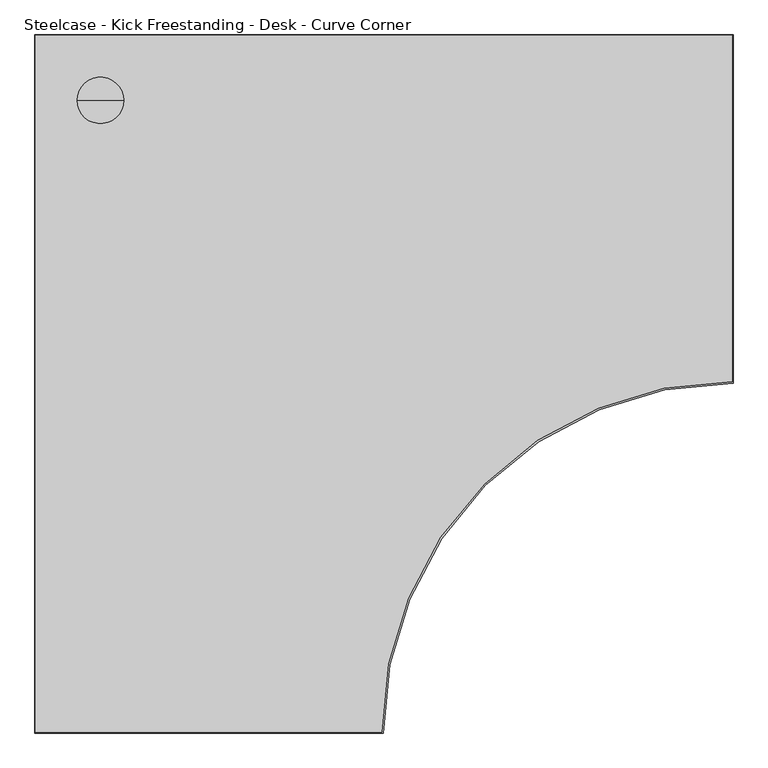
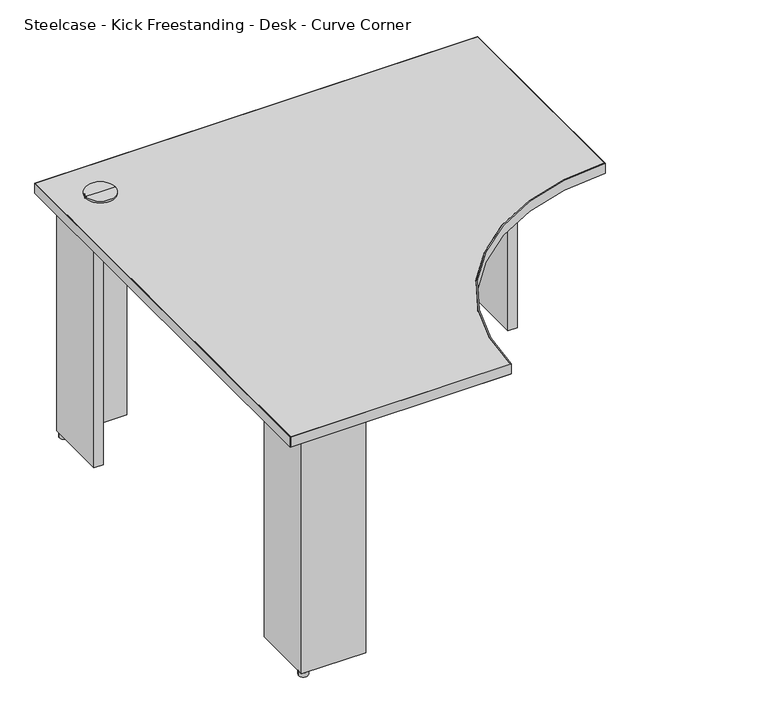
"""IFC4 building model written with IfcOpenShell, lengths in millimetres: furniture geometry, Steelcase - Kick Freestanding - Desk - Curve Corner : 24D x 48W - Two Clear Access Support - LPL."""

from ifc_helpers import new_model, si_unit, point, frame, frame_2d, origin, origin_with_axes, place, context, project, spatial, polyline, circle_curve, trimmed, segment, composite_curve, outline, extrude, source, transform, mapped, element, save
from ifc_brep_helpers import plane_surface, cylinder_surface, advanced_brep


def steelcase_kick_freestanding_desk_curve_corner_5aa43547(model_context):
    return source(origin(), model_context, "Body", "SolidModel", [
        extrude(outline(polyline([(1026.4393822, -63.5), (1026.4393822, -38.1), (1204.2393579, -38.1), (1204.2393579, -215.8999939), (1178.3313463, -215.8999939), (1178.3313463, -63.5), (1026.4393822, -63.5)])), frame((0.0, 0.0, 12.446), z_axis=(0.0, 0.0, 1.0), x_axis=(1.0, 0.0, 0.0)), (0.0, 0.0, 1.0), 682.498),
        extrude(outline(polyline([(215.8999939, -63.5), (63.5, -63.5), (63.5, -215.8999939), (38.1, -215.8999939), (38.1, -38.1), (215.8999939, -38.1), (215.8999939, -63.5)])), frame((0.0, 0.0, 12.446), z_axis=(0.0, 0.0, 1.0), x_axis=(1.0, 0.0, 0.0)), (0.0, 0.0, 1.0), 682.498),
        advanced_brep(
        [(114.3, -114.3, 728.98), (154.94, -114.3, 728.98), (73.66, -114.3, 728.98), (76.1699693, -114.3, 694.944), (152.4300307, -114.3, 694.944), (114.3, -114.3, 694.944), (76.1699693, -114.3, 723.9), (152.4300307, -114.3, 723.9), (73.66, -114.3, 723.9), (154.94, -114.3, 723.9)],
        [
            (0, 1),
            (1, 2, circle_curve(frame((114.3, -114.3, 728.98), z_axis=(0.0, 0.0, 1.0), x_axis=(1.0, 0.0, 0.0)), 40.64)),
            (2, 0),
            (2, 1, circle_curve(frame((114.3, -114.3, 728.98), z_axis=(0.0, 0.0, 1.0), x_axis=(1.0, 0.0, 0.0)), 40.64)),
            (3, 4, circle_curve(frame((114.3, -114.3, 694.944), z_axis=(0.0, 0.0, -1.0), x_axis=(1.0, 0.0, 0.0)), 38.1300307)),
            (4, 5),
            (5, 3),
            (4, 3, circle_curve(frame((114.3, -114.3, 694.944), z_axis=(0.0, 0.0, -1.0), x_axis=(1.0, 0.0, 0.0)), 38.1300307)),
            (6, 7, circle_curve(frame((114.3, -114.3, 723.9), z_axis=(0.0, 0.0, -1.0), x_axis=(1.0, 0.0, 0.0)), 38.1300307)),
            (7, 4),
            (3, 6),
            (7, 6, circle_curve(frame((114.3, -114.3, 723.9), z_axis=(0.0, 0.0, -1.0), x_axis=(1.0, 0.0, 0.0)), 38.1300307)),
            (8, 9, circle_curve(frame((114.3, -114.3, 723.9), z_axis=(0.0, 0.0, -1.0), x_axis=(1.0, 0.0, 0.0)), 40.64)),
            (9, 7),
            (6, 8),
            (9, 8, circle_curve(frame((114.3, -114.3, 723.9), z_axis=(0.0, 0.0, -1.0), x_axis=(1.0, 0.0, 0.0)), 40.64)),
            (1, 9),
            (8, 2),
        ],
        [
            plane_surface(frame((114.3, -114.3, 728.98), z_axis=(0.0, 0.0, 1.0), x_axis=(1.0, 0.0, 0.0))),
            plane_surface(frame((114.3, -114.3, 694.944), z_axis=(0.0, 0.0, -1.0), x_axis=(1.0, 0.0, 0.0))),
            cylinder_surface(frame((114.3, -114.3, 728.98), z_axis=(0.0, 0.0, 1.0), x_axis=(1.0, 0.0, 0.0)), 38.1300307),
            plane_surface(frame((114.3, -114.3, 723.9), z_axis=(0.0, 0.0, -1.0), x_axis=(1.0, 0.0, 0.0))),
            cylinder_surface(frame((114.3, -114.3, 728.98), z_axis=(0.0, 0.0, 1.0), x_axis=(1.0, 0.0, 0.0)), 40.64),
        ],
        [
            (0, [[1, 2, 3]]),
            (0, [[-3, 4, -1]]),
            (1, [[5, 6, 7]]),
            (1, [[8, -7, -6]]),
            (2, [[9, 10, -5, 11]]),
            (2, [[12, -11, -8, -10]]),
            (3, [[13, 14, -9, 15]]),
            (3, [[16, -15, -12, -14]]),
            (4, [[-2, 17, -13, 18]]),
            (4, [[-4, -18, -16, -17]]),
        ],
    ),
        extrude(outline(composite_curve([segment(trimmed(circle_curve(frame_2d((50.8, -50.8)), 12.7), [point((38.1, -50.8))], [point((63.5, -50.8))], False, "CARTESIAN"), True, "CONTINUOUS"), segment(trimmed(circle_curve(frame_2d((50.8, -50.8)), 12.7), [point((63.5, -50.8))], [point((38.1, -50.8))], False, "CARTESIAN"), True, "CONTINUOUS")], self_intersect=False)), origin_with_axes(), (0.0, 0.0, 1.0), 12.446),
        extrude(outline(composite_curve([segment(trimmed(circle_curve(frame_2d((50.8, -1192.5300073)), 12.7484998), [point((38.0515002, -1192.5300073))], [point((63.5484998, -1192.5300073))], False, "CARTESIAN"), True, "CONTINUOUS"), segment(trimmed(circle_curve(frame_2d((50.8, -1192.5300073)), 12.7484998), [point((63.5484998, -1192.5300073))], [point((38.0515002, -1192.5300073))], False, "CARTESIAN"), True, "CONTINUOUS")], self_intersect=False)), origin_with_axes(), (0.0, 0.0, 1.0), 12.446),
        extrude(outline(composite_curve([segment(trimmed(circle_curve(frame_2d((1191.2853521, -50.8)), 12.7), [point((1178.5853521, -50.8))], [point((1203.9853521, -50.8))], False, "CARTESIAN"), True, "CONTINUOUS"), segment(trimmed(circle_curve(frame_2d((1191.2853521, -50.8)), 12.7), [point((1203.9853521, -50.8))], [point((1178.5853521, -50.8))], False, "CARTESIAN"), True, "CONTINUOUS")], self_intersect=False)), origin_with_axes(), (0.0, 0.0, 1.0), 12.446),
        extrude(outline(polyline([(215.8999939, -1179.8300194), (215.8999939, -1205.2299952), (38.1, -1205.2299952), (38.1, -1027.4300194), (63.5, -1027.4300194), (63.5, -1179.8300194), (215.8999939, -1179.8300194)])), frame((0.0, 0.0, 12.446), z_axis=(0.0, 0.0, 1.0), x_axis=(1.0, 0.0, 0.0)), (0.0, 0.0, 1.0), 682.498),
        extrude(outline(composite_curve([segment(polyline([(0.9906, -1218.2093628), (0.9906, -0.9906), (1218.2093628, -0.9906), (1218.2093628, -605.3354109)]), True, "CONTINUOUS"), segment(trimmed(circle_curve(frame_2d((1216.9393458, -1216.9393458)), 611.6052536), [point((1218.2093628, -605.3354109))], [point((605.3354109, -1218.2093628))], True, "CARTESIAN"), True, "CONTINUOUS"), segment(polyline([(605.3354109, -1218.2093628), (0.9906, -1218.2093628)]), True, "CONTINUOUS")], self_intersect=False)), frame((0.0, 0.0, 694.944), z_axis=(0.0, 0.0, 1.0), x_axis=(1.0, 0.0, 0.0)), (0.0, 0.0, 1.0), 28.956),
        extrude(outline(composite_curve([segment(polyline([(1219.2, 0.0), (1219.2, -608.332629)]), True, "CONTINUOUS"), segment(trimmed(circle_curve(frame_2d((1217.929983, -1217.929983)), 609.598677), [point((1219.2, -608.332629))], [point((608.332629, -1219.2))], True, "CARTESIAN"), True, "CONTINUOUS"), segment(polyline([(608.332629, -1219.2), (0.0, -1219.2), (0.0, 0.0), (1219.2, 0.0)]), True, "CONTINUOUS")], self_intersect=False), holes=[composite_curve([segment(polyline([(1218.2093628, -0.9906), (0.9906, -0.9906), (0.9906, -1218.2093628), (605.3354109, -1218.2093628)]), True, "CONTINUOUS"), segment(trimmed(circle_curve(frame_2d((1216.9393458, -1216.9393458)), 611.6052536), [point((605.3354109, -1218.2093628))], [point((1218.2093628, -605.3354109))], False, "CARTESIAN"), True, "CONTINUOUS"), segment(polyline([(1218.2093628, -605.3354109), (1218.2093628, -0.9906)]), True, "CONTINUOUS")], self_intersect=False)]), frame((0.0, 0.0, 694.944), z_axis=(0.0, 0.0, 1.0), x_axis=(1.0, 0.0, 0.0)), (0.0, 0.0, 1.0), 28.956),
    ])


if __name__ == "__main__":
    model = new_model("IFC4")
    model_context = context("Model", 3, world=origin())
    ifc_project = project(units=[si_unit("LENGTHUNIT", "METRE", prefix="MILLI")], contexts=[model_context])
    site = spatial("IfcSite", under=ifc_project)
    building = spatial("IfcBuilding", under=site)
    placement = place(None, origin())
    steelcase_kick_freestanding_desk_curve_corner_shape = steelcase_kick_freestanding_desk_curve_corner_5aa43547(model_context)
    element("IfcFurniture", 1, ObjectType="Steelcase - Kick Freestanding - Desk - Curve Corner : 24D x 48W - Two Clear Access Support - LPL", at=placement, inside=building, context=model_context, shape_type="MappedRepresentation", body=[
        mapped(steelcase_kick_freestanding_desk_curve_corner_shape, transform((0.0, 0.0, 0.0), x_axis=(1.0, 0.0, 0.0), y_axis=(0.0, 1.0, 0.0), z_axis=(0.0, 0.0, 1.0))),
    ])
    save(model, "model.ifc")
